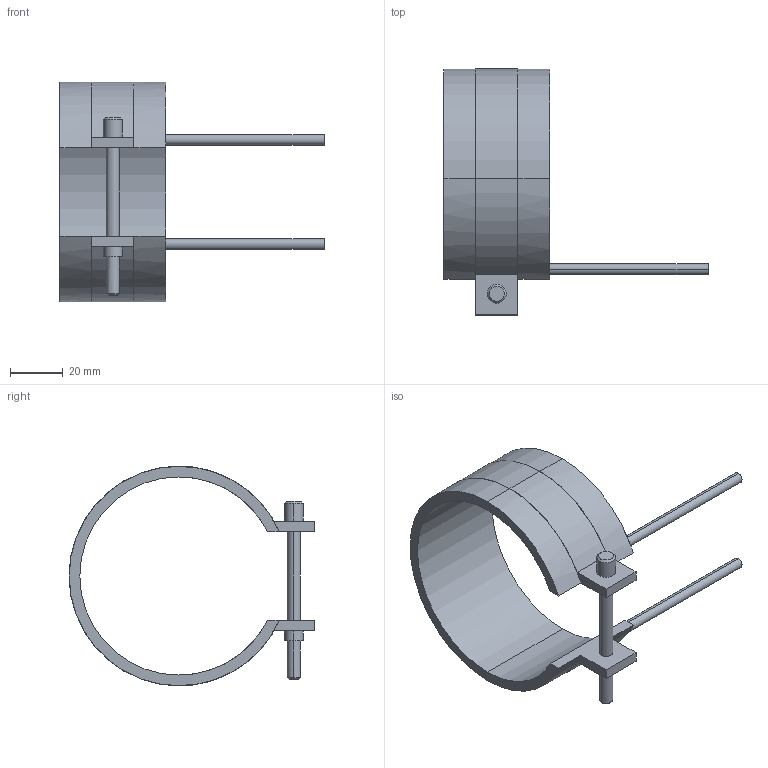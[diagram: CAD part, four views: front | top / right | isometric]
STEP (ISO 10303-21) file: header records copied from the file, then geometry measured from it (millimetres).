
FILE_DESCRIPTION(('CATIA V5 STEP Exchange'),'2;1');
FILE_NAME('C:\Users\Utente\Desktop\IO LAVORO\3D X SITO CF\X SITO\PLASTICA\RF2\14075040.stp','2021-04-03T08:43:51+00:00',('none'),('none'),'CATIA Version 5 Release 20 GA (IN-10)','CATIA V5 STEP AP203','none');
FILE_SCHEMA(('CONFIG_CONTROL_DESIGN'));
Length unit declared in the file: millimetre
Products named in the file (1): 14075040
Bounding box: 100 x 93.1 x 83.2 mm (x, y, z)
Volume: 39274.4 mm3; surface area: 22806.7 mm2
Topology: 1 solids, 1 shells, 45 faces, 116 edges, 76 vertices
Faces by surface type: cylinder 24, plane 17, cone 4
Entity records: 1406 total; most frequent: CARTESIAN_POINT 280, ORIENTED_EDGE 232, DIRECTION 196, EDGE_CURVE 116, AXIS2_PLACEMENT_3D 104, VERTEX_POINT 76, CIRCLE 62, VECTOR 52
